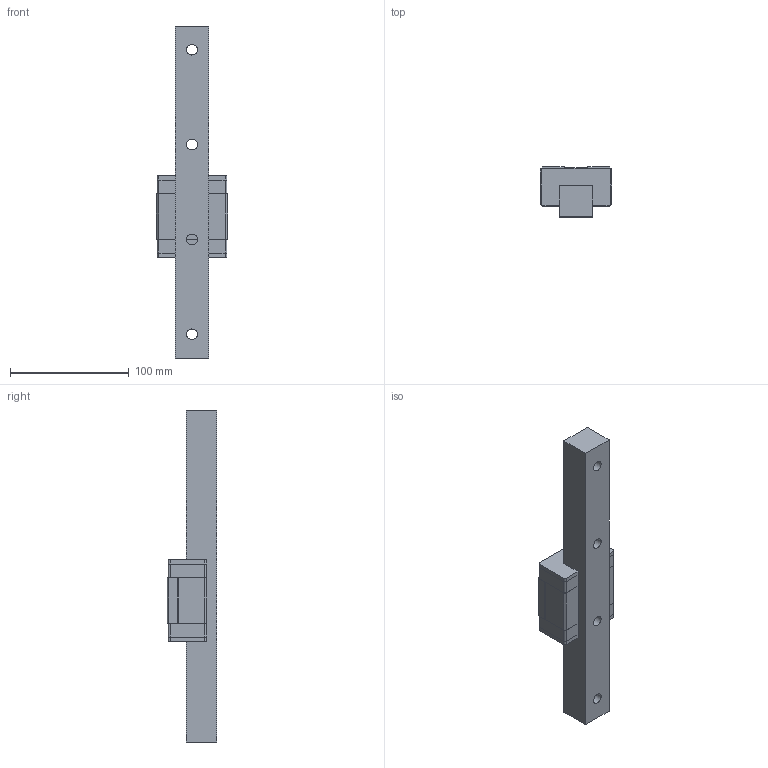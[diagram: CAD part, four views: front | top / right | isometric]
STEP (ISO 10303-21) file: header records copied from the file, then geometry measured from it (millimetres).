
FILE_DESCRIPTION((''),'2;1');
FILE_NAME('E:\PDF郪磁芞\DFS-B\DFS30BS.STP','2018-01-31T12:46:35',(''),(''),'STEP Write','Mastercam V9 ... CNC Software, Inc.','');
FILE_SCHEMA(('CONFIG_CONTROL_DESIGN'));
Length unit declared in the file: millimetre
Bounding box: 60 x 42 x 280 mm (x, y, z)
Volume: 291216.4 mm3; surface area: 64339.7 mm2
Topology: 6 solids, 6 shells, 98 faces, 440 edges, 550 vertices
Faces by surface type: plane 72, cylinder 26
Full cylindrical faces by diameter (mm): 7.3 x2, 9 x4, 14 x4
Entity records: 4166 total; most frequent: CARTESIAN_POINT 917, DIRECTION 717, ORIENTED_EDGE 460, VECTOR 319, LINE 319, EDGE_CURVE 230, AXIS2_PLACEMENT_3D 199, TRIMMED_CURVE 190
